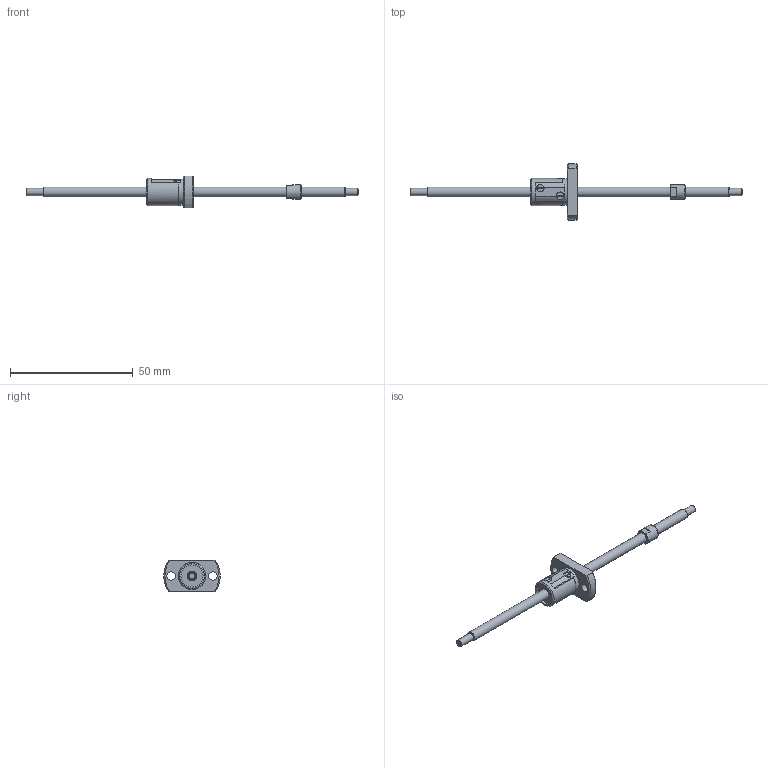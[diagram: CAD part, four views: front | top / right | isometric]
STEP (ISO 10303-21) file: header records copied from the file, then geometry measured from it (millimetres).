
FILE_DESCRIPTION(/* description */ ('STEP AP214'),/* implementation_level */ '2;1');
FILE_NAME(/* name */ 'SG0402-096R135C3C0X(42)',/* time_stamp */ '2026-07-20T19:40:44+02:00',/* author */ ('License CC BY-ND 4.0'),/* organization */ ('CADENAS'),/* preprocessor_version */ 'ST-DEVELOPER v20',/* originating_system */ 'PARTsolutions',/* authorisation */ ' ');
FILE_SCHEMA (('AUTOMOTIVE_DESIGN {1 0 10303 214 3 1 1}'));
Length unit declared in the file: millimetre
Products named in the file (3): SG0402-096R135C3C0X(42); SG0402-96R135C3C_shaft; SG0402_nut
Assembly tree (2 placements, depth 2):
  SG0402-096R135C3C0X(42)
    SG0402-96R135C3C_shaft
    SG0402_nut
Bounding box: 135 x 22.92 x 13 mm (x, y, z)
Volume: 3792.2 mm3; surface area: 3406.3 mm2
Topology: 2 solids, 2 shells, 76 faces, 188 edges, 121 vertices
Faces by surface type: plane 41, cylinder 24, cone 10, torus 1
Full cylindrical faces by diameter (mm): 1.78 x2, 3 x4, 3.4 x2, 4 x3, 6 x1, 9 x2, 10.6 x1, 11 x1
Entity records: 2147 total; most frequent: CARTESIAN_POINT 387, DIRECTION 368, ORIENTED_EDGE 308, EDGE_CURVE 154, AXIS2_PLACEMENT_3D 151, VERTEX_POINT 112, EDGE_LOOP 112, FACE_BOUND 112
